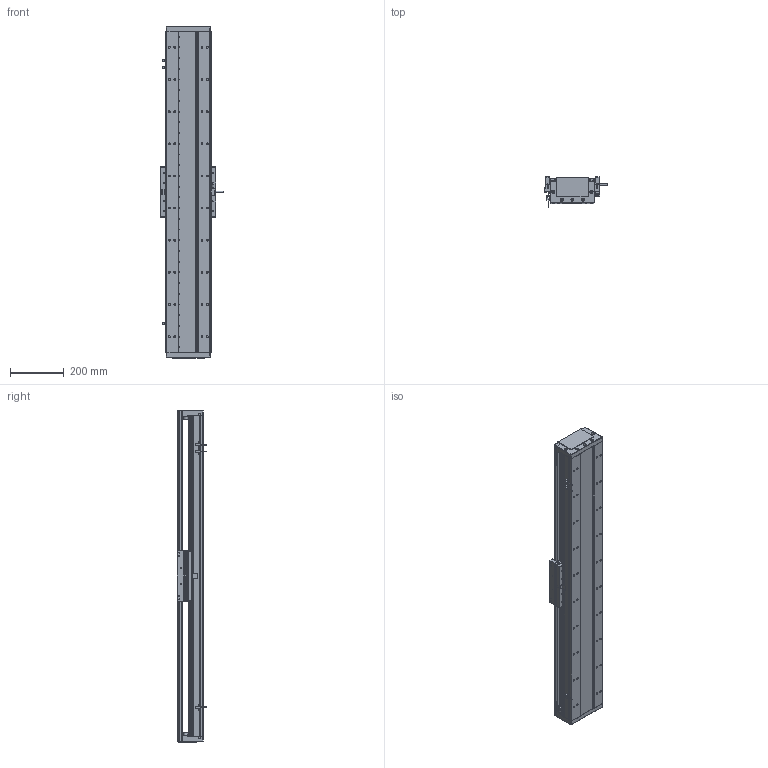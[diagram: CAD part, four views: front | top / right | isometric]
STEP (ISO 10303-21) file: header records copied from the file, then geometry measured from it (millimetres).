
FILE_DESCRIPTION (( 'STEP AP203' ), '1' );
FILE_NAME ('DA-C165-C2-T960-C010-0.2 直线电机.STEP', '2023-05-11T07:33:33', ( '微软用户' ), ( '微软中国' ), 'SwSTEP 2.0', 'SolidWorks 2019', '' );
FILE_SCHEMA (( 'CONFIG_CONTROL_DESIGN' ));
Length unit declared in the file: millimetre
Products named in the file (15): IU-CU165-L-00 菁釱_L1200; 复件 DA165-GYP-00 光电感应片^DA-C165-C2-T-C010-0.2-N 直线电机; DA-C165-C2-T960-C010-0.2 眻盄萇儂; 葩璃 PM-T45^DA-C165-C2-T-C010-0.2-N 眻盄萇儂; IU-CU165-L 菁釱絳寢; 复件 DA95-HXJ-00 缓冲橡胶^DA-C165-C2-T-C010-0.2-N 直线电机; 复件 DMA-010-0.2 读数头^DA-C165-C2-T-C010-0.2-N 直线电机; 复件 DA165-T-002-00 盖板^DA-C165-C2-T-C010-0.2-N 直线电机_0840-002-00; 葩璃 DA95-GT-T-00^IU-CU165-L 菁釱絳寢_T; 复件 XD-U-02L 磁栅尺^DA-C165-C2-T-C010-0.2-N 直线电机_T; 葩璃 CKM01-W075-TRL^DA-C165-C2-T-C010-0.2-N 眻盄萇儂; 复件 六角薄螺母 M3^DA-C165-C2-T-C010-0.2-N 直线电机_GB_FASTENER_NUT_STNAB M3-C; 复件 CKM02-W075-C1C2-TP-3.0 一体电机-C2^DA-C165-C2-T-C010-0.2-N 直线电机; 珨极趙賑雄怢啣wf-C2; 复件 DA165-DG-H-N-00 端盖^DA-C165-C2-T-C010-0.2-N 直线电机
Assembly tree (28 placements, depth 3):
  DA-C165-C2-T960-C010-0.2 眻盄萇儂
    IU-CU165-L 菁釱絳寢
      IU-CU165-L-00 菁釱_L1200
      葩璃 DA95-GT-T-00^IU-CU165-L 菁釱絳寢_T  x4
    复件 DA165-DG-H-N-00 端盖^DA-C165-C2-T-C010-0.2-N 直线电机  x2
    复件 DA95-HXJ-00 缓冲橡胶^DA-C165-C2-T-C010-0.2-N 直线电机  x4
    复件 DA165-T-002-00 盖板^DA-C165-C2-T-C010-0.2-N 直线电机_0840-002-00
    复件 XD-U-02L 磁栅尺^DA-C165-C2-T-C010-0.2-N 直线电机_T
    葩璃 PM-T45^DA-C165-C2-T-C010-0.2-N 眻盄萇儂  x3
    葩璃 CKM01-W075-TRL^DA-C165-C2-T-C010-0.2-N 眻盄萇儂
    复件 DA165-GYP-00 光电感应片^DA-C165-C2-T-C010-0.2-N 直线电机
    复件 DMA-010-0.2 读数头^DA-C165-C2-T-C010-0.2-N 直线电机
    复件 CKM02-W075-C1C2-TP-3.0 一体电机-C2^DA-C165-C2-T-C010-0.2-N 直线电机
    复件 六角薄螺母 M3^DA-C165-C2-T-C010-0.2-N 直线电机_GB_FASTENER_NUT_STNAB M3-C  x6
    珨极趙賑雄怢啣wf-C2
Bounding box: 233 x 111.45 x 1240 mm (x, y, z)
Volume: 8761218.5 mm3; surface area: 2422005.1 mm2
Topology: 66 solids, 66 shells, 3160 faces, 8744 edges, 5503 vertices
Faces by surface type: cylinder 1631, plane 1065, cone 406, torus 54, sphere 4
Entity records: 96721 total; most frequent: CARTESIAN_POINT 22978, DIRECTION 15170, ORIENTED_EDGE 14962, EDGE_CURVE 7481, AXIS2_PLACEMENT_3D 5709, VERTEX_POINT 4839, VECTOR 3752, LINE 3752
